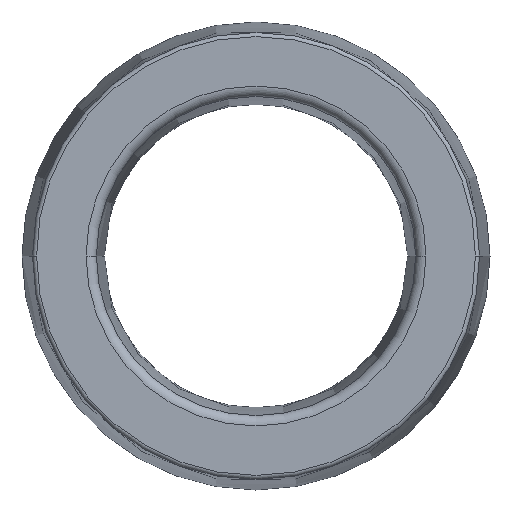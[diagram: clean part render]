
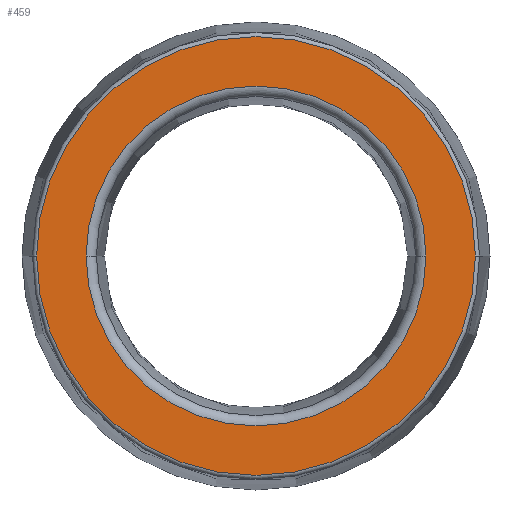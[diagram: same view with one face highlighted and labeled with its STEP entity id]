
A CAD part, left-side view. The second image highlights one B-rep face of the part: STEP entity #459.
In plain terms, the highlighted planar face has unit normal (-1, 0, 0).
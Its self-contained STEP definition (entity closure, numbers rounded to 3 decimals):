
#70=PLANE('',#3654);
#459=ADVANCED_FACE('',(#995,#996),#70,.T.);
#995=FACE_BOUND('',#1048,.T.);
#996=FACE_BOUND('',#1049,.T.);
#1048=EDGE_LOOP('',(#1530,#1531));
#1049=EDGE_LOOP('',(#1532,#1533));
#1286=CIRCLE('',#3637,10.615);
#1288=CIRCLE('',#3640,8.223);
#1295=CIRCLE('',#3652,10.615);
#1296=CIRCLE('',#3653,8.223);
#1530=ORIENTED_EDGE('',*,*,#2881,.T.);
#1531=ORIENTED_EDGE('',*,*,#2896,.T.);
#1532=ORIENTED_EDGE('',*,*,#2897,.T.);
#1533=ORIENTED_EDGE('',*,*,#2883,.T.);
#2530=VERTEX_POINT('',#5748);
#2531=VERTEX_POINT('',#5750);
#2532=VERTEX_POINT('',#5754);
#2533=VERTEX_POINT('',#5755);
#2881=EDGE_CURVE('',#2531,#2530,#1286,.T.);
#2883=EDGE_CURVE('',#2532,#2533,#1288,.T.);
#2896=EDGE_CURVE('',#2530,#2531,#1295,.T.);
#2897=EDGE_CURVE('',#2533,#2532,#1296,.T.);
#3637=AXIS2_PLACEMENT_3D('',#5749,#3958,#3959);
#3640=AXIS2_PLACEMENT_3D('',#5753,#3964,#3965);
#3652=AXIS2_PLACEMENT_3D('',#5775,#3994,#3995);
#3653=AXIS2_PLACEMENT_3D('',#5776,#3996,#3997);
#3654=AXIS2_PLACEMENT_3D('',#5777,#3998,#3999);
#3958=DIRECTION('',(-1.,0.,0.));
#3959=DIRECTION('',(0.,-1.,0.));
#3964=DIRECTION('',(1.,0.,0.));
#3965=DIRECTION('',(0.,-1.,0.));
#3994=DIRECTION('',(-1.,0.,0.));
#3995=DIRECTION('',(0.,-1.,0.));
#3996=DIRECTION('',(1.,0.,0.));
#3997=DIRECTION('',(0.,-1.,0.));
#3998=DIRECTION('',(-1.,0.,0.));
#3999=DIRECTION('',(0.,1.,0.));
#5748=CARTESIAN_POINT('',(14.,10.615,-24.));
#5749=CARTESIAN_POINT('',(14.,0.,-24.));
#5750=CARTESIAN_POINT('',(14.,-10.615,-24.));
#5753=CARTESIAN_POINT('',(14.,0.,-24.));
#5754=CARTESIAN_POINT('',(14.,8.223,-24.));
#5755=CARTESIAN_POINT('',(14.,-8.223,-24.));
#5775=CARTESIAN_POINT('',(14.,0.,-24.));
#5776=CARTESIAN_POINT('',(14.,0.,-24.));
#5777=CARTESIAN_POINT('',(14.,7.735,-24.));
